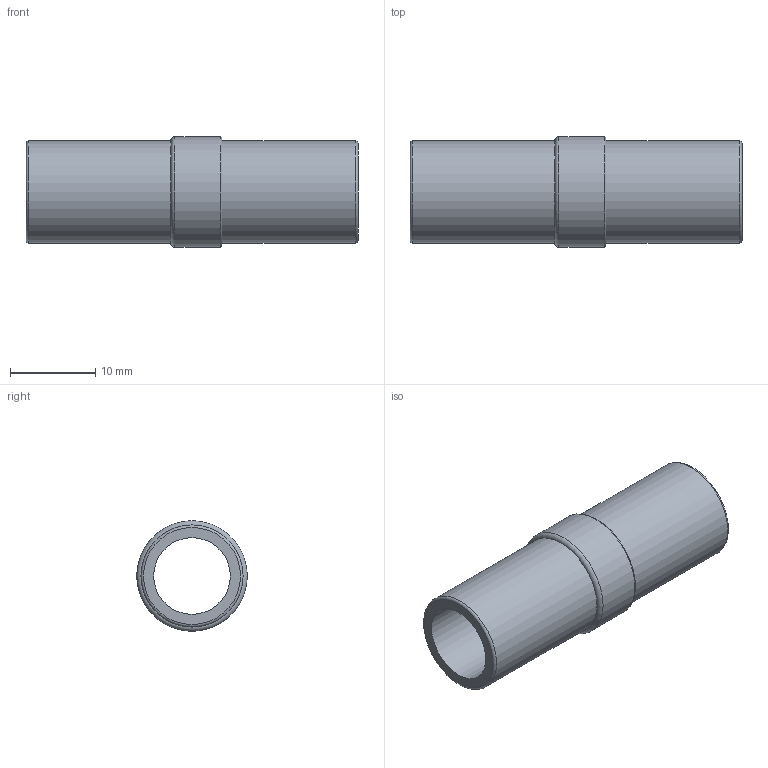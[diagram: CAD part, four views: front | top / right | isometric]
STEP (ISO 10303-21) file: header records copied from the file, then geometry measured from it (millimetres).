
FILE_DESCRIPTION((''),'2;1');
FILE_NAME('E:\2012年度板ﾃﾞｰﾀ\CHIYODA 3D-CAD DATA (Inventor 11)\TOUCH CONNECTOR FIVE (Inventor 11)\[23] JOINT\[05] FR12-12J FR12-12JW.stp','2012-03-21T16:36:44',('kazuhiro.t'),(''),'Autodesk Inventor 11','Autodesk Inventor 11','');
FILE_SCHEMA(('AUTOMOTIVE_DESIGN { 1 0 10303 214 1 1 1 1 }'));
Length unit declared in the file: millimetre
Products named in the file (1): [05] FR12-12J FR12-12JW
Bounding box: 39 x 13 x 13 mm (x, y, z)
Volume: 2043.6 mm3; surface area: 2707.9 mm2
Topology: 1 solids, 1 shells, 11 faces, 20 edges, 12 vertices
Faces by surface type: torus 4, cylinder 4, plane 3
Full cylindrical faces by diameter (mm): 9 x1, 12 x2, 13 x1
Entity records: 251 total; most frequent: DIRECTION 46, CARTESIAN_POINT 34, AXIS2_PLACEMENT_3D 23, ORIENTED_EDGE 22, EDGE_LOOP 22, VERTEX_POINT 11, CIRCLE 11, EDGE_CURVE 11
